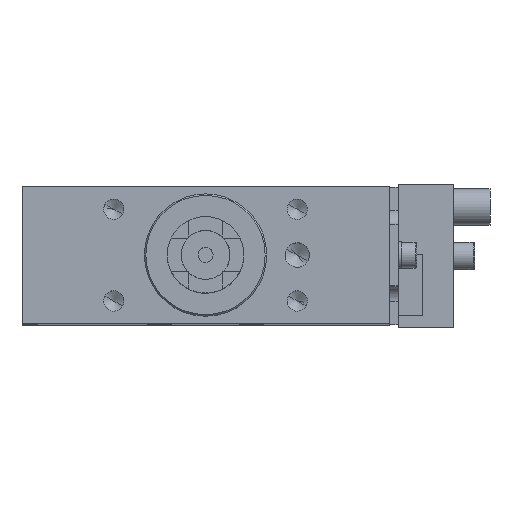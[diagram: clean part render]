
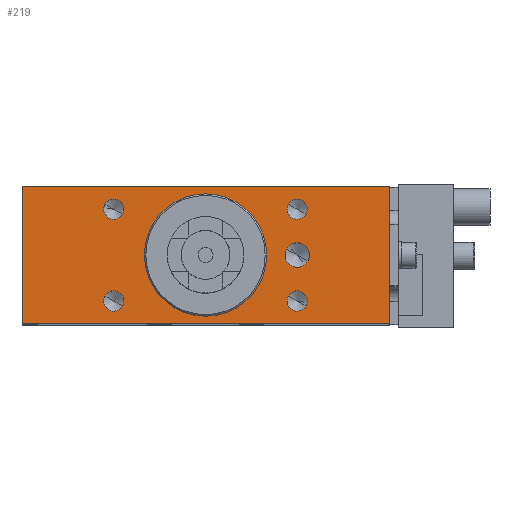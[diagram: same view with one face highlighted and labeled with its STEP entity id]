
A CAD part, top view. The second image highlights one B-rep face of the part: STEP entity #219.
In plain terms, the highlighted planar face has unit normal (0, 0, 1).
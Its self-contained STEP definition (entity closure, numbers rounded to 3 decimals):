
#75=AXIS2_PLACEMENT_3D('Plane Axis2P3D',#72,#73,#74) ;
#113=AXIS2_PLACEMENT_3D('Circle Axis2P3D',#111,#112,$) ;
#122=AXIS2_PLACEMENT_3D('Circle Axis2P3D',#120,#121,$) ;
#131=AXIS2_PLACEMENT_3D('Circle Axis2P3D',#129,#130,$) ;
#140=AXIS2_PLACEMENT_3D('Circle Axis2P3D',#138,#139,$) ;
#149=AXIS2_PLACEMENT_3D('Circle Axis2P3D',#147,#148,$) ;
#158=AXIS2_PLACEMENT_3D('Circle Axis2P3D',#156,#157,$) ;
#167=AXIS2_PLACEMENT_3D('Circle Axis2P3D',#165,#166,$) ;
#176=AXIS2_PLACEMENT_3D('Circle Axis2P3D',#174,#175,$) ;
#185=AXIS2_PLACEMENT_3D('Circle Axis2P3D',#183,#184,$) ;
#194=AXIS2_PLACEMENT_3D('Circle Axis2P3D',#192,#193,$) ;
#203=AXIS2_PLACEMENT_3D('Circle Axis2P3D',#201,#202,$) ;
#212=AXIS2_PLACEMENT_3D('Circle Axis2P3D',#210,#211,$) ;
#72=CARTESIAN_POINT('Axis2P3D Location',(-60.,0.,0.)) ;
#77=CARTESIAN_POINT('Line Origine',(-60.,0.,0.)) ;
#81=CARTESIAN_POINT('Vertex',(-60.,-22.5,0.)) ;
#83=CARTESIAN_POINT('Vertex',(-60.,22.5,0.)) ;
#86=CARTESIAN_POINT('Line Origine',(0.,-22.5,0.)) ;
#90=CARTESIAN_POINT('Vertex',(60.,-22.5,0.)) ;
#93=CARTESIAN_POINT('Line Origine',(60.,0.,0.)) ;
#97=CARTESIAN_POINT('Vertex',(60.,22.5,0.)) ;
#100=CARTESIAN_POINT('Line Origine',(0.,22.5,0.)) ;
#111=CARTESIAN_POINT('Axis2P3D Location',(30.,0.,0.)) ;
#115=CARTESIAN_POINT('Vertex',(26.49,1.918,0.)) ;
#117=CARTESIAN_POINT('Vertex',(33.51,-1.918,0.)) ;
#120=CARTESIAN_POINT('Axis2P3D Location',(30.,0.,0.)) ;
#129=CARTESIAN_POINT('Axis2P3D Location',(-30.,-15.,0.)) ;
#133=CARTESIAN_POINT('Vertex',(-32.917,-13.407,0.)) ;
#135=CARTESIAN_POINT('Vertex',(-27.083,-16.593,0.)) ;
#138=CARTESIAN_POINT('Axis2P3D Location',(-30.,-15.,0.)) ;
#147=CARTESIAN_POINT('Axis2P3D Location',(0.,0.,0.)) ;
#151=CARTESIAN_POINT('Vertex',(20.,0.,0.)) ;
#153=CARTESIAN_POINT('Vertex',(-20.,0.,0.)) ;
#156=CARTESIAN_POINT('Axis2P3D Location',(0.,0.,0.)) ;
#165=CARTESIAN_POINT('Axis2P3D Location',(-30.,15.,0.)) ;
#169=CARTESIAN_POINT('Vertex',(-27.083,13.407,0.)) ;
#171=CARTESIAN_POINT('Vertex',(-32.917,16.593,0.)) ;
#174=CARTESIAN_POINT('Axis2P3D Location',(-30.,15.,0.)) ;
#183=CARTESIAN_POINT('Axis2P3D Location',(30.,-15.,0.)) ;
#187=CARTESIAN_POINT('Vertex',(32.917,-16.593,0.)) ;
#189=CARTESIAN_POINT('Vertex',(27.083,-13.407,0.)) ;
#192=CARTESIAN_POINT('Axis2P3D Location',(30.,-15.,0.)) ;
#201=CARTESIAN_POINT('Axis2P3D Location',(30.,15.,0.)) ;
#205=CARTESIAN_POINT('Vertex',(32.917,13.407,0.)) ;
#207=CARTESIAN_POINT('Vertex',(27.083,16.593,0.)) ;
#210=CARTESIAN_POINT('Axis2P3D Location',(30.,15.,0.)) ;
#73=DIRECTION('Axis2P3D Direction',(0.,0.,1.)) ;
#74=DIRECTION('Axis2P3D XDirection',(1.,0.,0.)) ;
#78=DIRECTION('Vector Direction',(0.,1.,0.)) ;
#87=DIRECTION('Vector Direction',(1.,0.,0.)) ;
#94=DIRECTION('Vector Direction',(0.,1.,0.)) ;
#101=DIRECTION('Vector Direction',(1.,0.,0.)) ;
#112=DIRECTION('Axis2P3D Direction',(0.,0.,1.)) ;
#121=DIRECTION('Axis2P3D Direction',(0.,0.,1.)) ;
#130=DIRECTION('Axis2P3D Direction',(0.,0.,1.)) ;
#139=DIRECTION('Axis2P3D Direction',(0.,0.,1.)) ;
#148=DIRECTION('Axis2P3D Direction',(0.,0.,1.)) ;
#157=DIRECTION('Axis2P3D Direction',(0.,0.,1.)) ;
#166=DIRECTION('Axis2P3D Direction',(0.,0.,1.)) ;
#175=DIRECTION('Axis2P3D Direction',(0.,0.,1.)) ;
#184=DIRECTION('Axis2P3D Direction',(0.,0.,1.)) ;
#193=DIRECTION('Axis2P3D Direction',(0.,0.,1.)) ;
#202=DIRECTION('Axis2P3D Direction',(0.,0.,1.)) ;
#211=DIRECTION('Axis2P3D Direction',(0.,0.,1.)) ;
#79=VECTOR('Line Direction',#78,1.) ;
#88=VECTOR('Line Direction',#87,1.) ;
#95=VECTOR('Line Direction',#94,1.) ;
#102=VECTOR('Line Direction',#101,1.) ;
#106=ORIENTED_EDGE('',*,*,#85,.F.) ;
#107=ORIENTED_EDGE('',*,*,#92,.T.) ;
#108=ORIENTED_EDGE('',*,*,#99,.T.) ;
#109=ORIENTED_EDGE('',*,*,#104,.F.) ;
#126=ORIENTED_EDGE('',*,*,#119,.F.) ;
#127=ORIENTED_EDGE('',*,*,#124,.F.) ;
#144=ORIENTED_EDGE('',*,*,#137,.F.) ;
#145=ORIENTED_EDGE('',*,*,#142,.F.) ;
#162=ORIENTED_EDGE('',*,*,#155,.F.) ;
#163=ORIENTED_EDGE('',*,*,#160,.F.) ;
#180=ORIENTED_EDGE('',*,*,#173,.F.) ;
#181=ORIENTED_EDGE('',*,*,#178,.F.) ;
#198=ORIENTED_EDGE('',*,*,#191,.F.) ;
#199=ORIENTED_EDGE('',*,*,#196,.F.) ;
#216=ORIENTED_EDGE('',*,*,#209,.F.) ;
#217=ORIENTED_EDGE('',*,*,#214,.F.) ;
#128=FACE_BOUND('',#125,.T.) ;
#146=FACE_BOUND('',#143,.T.) ;
#164=FACE_BOUND('',#161,.T.) ;
#182=FACE_BOUND('',#179,.T.) ;
#200=FACE_BOUND('',#197,.T.) ;
#218=FACE_BOUND('',#215,.T.) ;
#219=ADVANCED_FACE('SZK_63_2_BR3_T12_TUENKERS',(#110,#128,#146,#164,#182,#200,#218),#76,.T.) ;
#114=CIRCLE('generated circle',#113,4.) ;
#123=CIRCLE('generated circle',#122,4.) ;
#132=CIRCLE('generated circle',#131,3.324) ;
#141=CIRCLE('generated circle',#140,3.324) ;
#150=CIRCLE('generated circle',#149,20.) ;
#159=CIRCLE('generated circle',#158,20.) ;
#168=CIRCLE('generated circle',#167,3.324) ;
#177=CIRCLE('generated circle',#176,3.324) ;
#186=CIRCLE('generated circle',#185,3.324) ;
#195=CIRCLE('generated circle',#194,3.324) ;
#204=CIRCLE('generated circle',#203,3.324) ;
#213=CIRCLE('generated circle',#212,3.324) ;
#85=EDGE_CURVE('',#82,#84,#80,.T.) ;
#92=EDGE_CURVE('',#82,#91,#89,.T.) ;
#99=EDGE_CURVE('',#91,#98,#96,.T.) ;
#104=EDGE_CURVE('',#84,#98,#103,.T.) ;
#119=EDGE_CURVE('',#116,#118,#114,.T.) ;
#124=EDGE_CURVE('',#118,#116,#123,.T.) ;
#137=EDGE_CURVE('',#134,#136,#132,.T.) ;
#142=EDGE_CURVE('',#136,#134,#141,.T.) ;
#155=EDGE_CURVE('',#152,#154,#150,.T.) ;
#160=EDGE_CURVE('',#154,#152,#159,.T.) ;
#173=EDGE_CURVE('',#170,#172,#168,.T.) ;
#178=EDGE_CURVE('',#172,#170,#177,.T.) ;
#191=EDGE_CURVE('',#188,#190,#186,.T.) ;
#196=EDGE_CURVE('',#190,#188,#195,.T.) ;
#209=EDGE_CURVE('',#206,#208,#204,.T.) ;
#214=EDGE_CURVE('',#208,#206,#213,.T.) ;
#105=EDGE_LOOP('',(#106,#107,#108,#109)) ;
#125=EDGE_LOOP('',(#126,#127)) ;
#143=EDGE_LOOP('',(#144,#145)) ;
#161=EDGE_LOOP('',(#162,#163)) ;
#179=EDGE_LOOP('',(#180,#181)) ;
#197=EDGE_LOOP('',(#198,#199)) ;
#215=EDGE_LOOP('',(#216,#217)) ;
#110=FACE_OUTER_BOUND('',#105,.T.) ;
#80=LINE('Line',#77,#79) ;
#89=LINE('Line',#86,#88) ;
#96=LINE('Line',#93,#95) ;
#103=LINE('Line',#100,#102) ;
#76=PLANE('Plane',#75) ;
#82=VERTEX_POINT('',#81) ;
#84=VERTEX_POINT('',#83) ;
#91=VERTEX_POINT('',#90) ;
#98=VERTEX_POINT('',#97) ;
#116=VERTEX_POINT('',#115) ;
#118=VERTEX_POINT('',#117) ;
#134=VERTEX_POINT('',#133) ;
#136=VERTEX_POINT('',#135) ;
#152=VERTEX_POINT('',#151) ;
#154=VERTEX_POINT('',#153) ;
#170=VERTEX_POINT('',#169) ;
#172=VERTEX_POINT('',#171) ;
#188=VERTEX_POINT('',#187) ;
#190=VERTEX_POINT('',#189) ;
#206=VERTEX_POINT('',#205) ;
#208=VERTEX_POINT('',#207) ;
